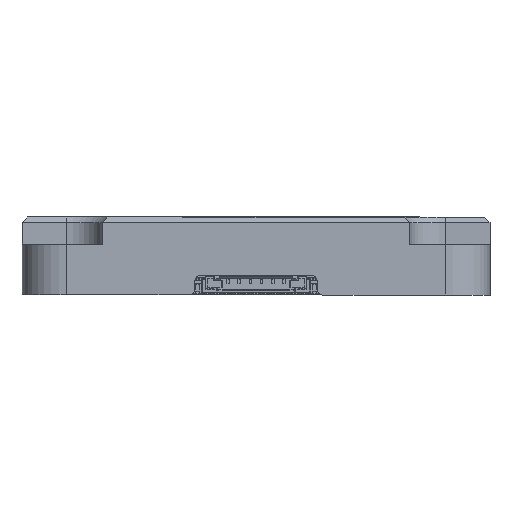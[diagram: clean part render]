
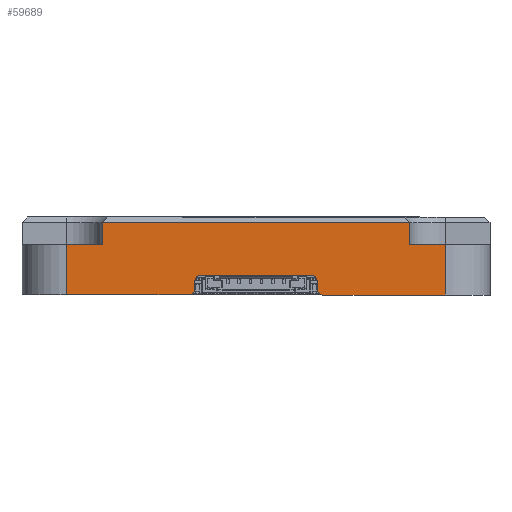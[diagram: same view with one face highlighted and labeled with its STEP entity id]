
A CAD part, front view. The second image highlights one B-rep face of the part: STEP entity #59689.
In plain terms, the highlighted planar face has unit normal (0, -1, 0) as drawn and (0, 0, 1) by its records, which use the part's own axes.
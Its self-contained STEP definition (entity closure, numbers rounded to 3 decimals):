
#8206=LINE('',#113080,#16148);
#8223=LINE('',#113121,#16165);
#8225=LINE('',#113125,#16167);
#8231=LINE('',#113139,#16173);
#8314=LINE('',#113537,#16256);
#8317=LINE('',#113545,#16259);
#8322=LINE('',#113555,#16264);
#8328=LINE('',#113570,#16270);
#8354=LINE('',#113648,#16296);
#8357=LINE('',#113654,#16299);
#8361=LINE('',#113670,#16303);
#8362=LINE('',#113675,#16304);
#16148=VECTOR('',#95926,1000.);
#16165=VECTOR('',#95965,1000.);
#16167=VECTOR('',#95969,1000.);
#16173=VECTOR('',#95977,1000.);
#16256=VECTOR('',#96414,1000.);
#16259=VECTOR('',#96421,1000.);
#16264=VECTOR('',#96432,1000.);
#16270=VECTOR('',#96448,1000.);
#16296=VECTOR('',#96530,1000.);
#16299=VECTOR('',#96533,1000.);
#16303=VECTOR('',#96547,1000.);
#16304=VECTOR('',#96556,1000.);
#33463=ORIENTED_EDGE('',*,*,#42144,.T.);
#33464=ORIENTED_EDGE('',*,*,#41916,.T.);
#33465=ORIENTED_EDGE('',*,*,#42131,.F.);
#33466=ORIENTED_EDGE('',*,*,#42127,.F.);
#33467=ORIENTED_EDGE('',*,*,#42195,.T.);
#33468=ORIENTED_EDGE('',*,*,#42187,.T.);
#33469=ORIENTED_EDGE('',*,*,#42196,.T.);
#33470=ORIENTED_EDGE('',*,*,#41945,.F.);
#33471=ORIENTED_EDGE('',*,*,#42197,.F.);
#33472=ORIENTED_EDGE('',*,*,#41937,.F.);
#33473=ORIENTED_EDGE('',*,*,#42198,.F.);
#33474=ORIENTED_EDGE('',*,*,#41939,.T.);
#33475=ORIENTED_EDGE('',*,*,#42199,.T.);
#33476=ORIENTED_EDGE('',*,*,#42184,.T.);
#33477=ORIENTED_EDGE('',*,*,#42200,.F.);
#33478=ORIENTED_EDGE('',*,*,#42136,.F.);
#41916=EDGE_CURVE('',#47646,#47650,#8206,.T.);
#41937=EDGE_CURVE('',#47663,#47664,#8223,.T.);
#41939=EDGE_CURVE('',#47665,#47666,#8225,.T.);
#41945=EDGE_CURVE('',#47671,#47672,#8231,.T.);
#42127=EDGE_CURVE('',#47809,#47810,#8314,.T.);
#42131=EDGE_CURVE('',#47810,#47650,#8317,.T.);
#42136=EDGE_CURVE('',#47814,#47815,#8322,.T.);
#42144=EDGE_CURVE('',#47814,#47646,#8328,.T.);
#42184=EDGE_CURVE('',#47843,#47844,#8354,.T.);
#42187=EDGE_CURVE('',#47846,#47845,#8357,.T.);
#42195=EDGE_CURVE('',#47809,#47846,#8361,.T.);
#42196=EDGE_CURVE('',#47845,#47672,#48535,.T.);
#42197=EDGE_CURVE('',#47664,#47671,#48536,.T.);
#42198=EDGE_CURVE('',#47665,#47663,#48537,.T.);
#42199=EDGE_CURVE('',#47666,#47843,#48538,.T.);
#42200=EDGE_CURVE('',#47815,#47844,#8362,.T.);
#47646=VERTEX_POINT('',#113067);
#47650=VERTEX_POINT('',#113079);
#47663=VERTEX_POINT('',#113120);
#47664=VERTEX_POINT('',#113122);
#47665=VERTEX_POINT('',#113126);
#47666=VERTEX_POINT('',#113127);
#47671=VERTEX_POINT('',#113138);
#47672=VERTEX_POINT('',#113140);
#47809=VERTEX_POINT('',#113536);
#47810=VERTEX_POINT('',#113538);
#47814=VERTEX_POINT('',#113554);
#47815=VERTEX_POINT('',#113556);
#47843=VERTEX_POINT('',#113649);
#47844=VERTEX_POINT('',#113650);
#47845=VERTEX_POINT('',#113653);
#47846=VERTEX_POINT('',#113655);
#48535=CIRCLE('',#81594,0.5);
#48536=CIRCLE('',#81595,0.5);
#48537=CIRCLE('',#81596,0.5);
#48538=CIRCLE('',#81597,0.5);
#51457=EDGE_LOOP('',(#33463,#33464,#33465,#33466,#33467,#33468,#33469,#33470,
#33471,#33472,#33473,#33474,#33475,#33476,#33477,#33478));
#54403=FACE_BOUND('',#51457,.T.);
#56877=PLANE('',#81593);
#59689=ADVANCED_FACE('',(#54403),#56877,.F.);
#81593=AXIS2_PLACEMENT_3D('',#113669,#96545,#96546);
#81594=AXIS2_PLACEMENT_3D('',#113671,#96548,#96549);
#81595=AXIS2_PLACEMENT_3D('',#113672,#96550,#96551);
#81596=AXIS2_PLACEMENT_3D('',#113673,#96552,#96553);
#81597=AXIS2_PLACEMENT_3D('',#113674,#96554,#96555);
#95926=DIRECTION('',(-1.,0.,0.));
#95965=DIRECTION('',(-1.,0.,0.));
#95969=DIRECTION('',(0.,-1.,0.));
#95977=DIRECTION('',(0.,-1.,0.));
#96414=DIRECTION('',(1.,0.,0.));
#96421=DIRECTION('',(0.,1.,0.));
#96432=DIRECTION('',(1.,0.,0.));
#96448=DIRECTION('',(0.,1.,0.));
#96530=DIRECTION('',(1.,0.,0.));
#96533=DIRECTION('',(1.,0.,0.));
#96545=DIRECTION('',(0.,0.,-1.));
#96546=DIRECTION('',(0.,-1.,0.));
#96547=DIRECTION('',(0.,-1.,0.));
#96548=DIRECTION('',(0.,0.,1.));
#96549=DIRECTION('',(-1.,0.,0.));
#96550=DIRECTION('',(0.,0.,1.));
#96551=DIRECTION('',(-1.,0.,0.));
#96552=DIRECTION('',(0.,0.,1.));
#96553=DIRECTION('',(-1.,0.,0.));
#96554=DIRECTION('',(0.,0.,1.));
#96555=DIRECTION('',(-1.,0.,0.));
#96556=DIRECTION('',(0.,-1.,0.));
#113067=CARTESIAN_POINT('',(13.8,6.5,33.5));
#113079=CARTESIAN_POINT('',(-13.8,6.5,33.5));
#113080=CARTESIAN_POINT('',(-17.,6.5,33.5));
#113120=CARTESIAN_POINT('',(5.,1.74,33.5));
#113121=CARTESIAN_POINT('',(-5.5,1.74,33.5));
#113122=CARTESIAN_POINT('',(-5.,1.74,33.5));
#113125=CARTESIAN_POINT('',(5.5,1.74,33.5));
#113126=CARTESIAN_POINT('',(5.5,1.24,33.5));
#113127=CARTESIAN_POINT('',(5.5,0.5,33.5));
#113138=CARTESIAN_POINT('',(-5.5,1.24,33.5));
#113139=CARTESIAN_POINT('',(-5.5,1.74,33.5));
#113140=CARTESIAN_POINT('',(-5.5,0.5,33.5));
#113536=CARTESIAN_POINT('',(-17.,4.5,33.5));
#113537=CARTESIAN_POINT('',(-17.,4.5,33.5));
#113538=CARTESIAN_POINT('',(-13.8,4.5,33.5));
#113545=CARTESIAN_POINT('',(-13.8,4.5,33.5));
#113554=CARTESIAN_POINT('',(13.8,4.5,33.5));
#113555=CARTESIAN_POINT('',(13.8,4.5,33.5));
#113556=CARTESIAN_POINT('',(17.,4.5,33.5));
#113570=CARTESIAN_POINT('',(13.8,4.5,33.5));
#113648=CARTESIAN_POINT('',(-17.,0.,33.5));
#113649=CARTESIAN_POINT('',(6.,0.,33.5));
#113650=CARTESIAN_POINT('',(17.,0.,33.5));
#113653=CARTESIAN_POINT('',(-6.,0.,33.5));
#113654=CARTESIAN_POINT('',(-17.,0.,33.5));
#113655=CARTESIAN_POINT('',(-17.,0.,33.5));
#113669=CARTESIAN_POINT('',(-17.,7.,33.5));
#113670=CARTESIAN_POINT('',(-17.,7.,33.5));
#113671=CARTESIAN_POINT('',(-6.,0.5,33.5));
#113672=CARTESIAN_POINT('',(-5.,1.24,33.5));
#113673=CARTESIAN_POINT('',(5.,1.24,33.5));
#113674=CARTESIAN_POINT('',(6.,0.5,33.5));
#113675=CARTESIAN_POINT('',(17.,7.,33.5));
